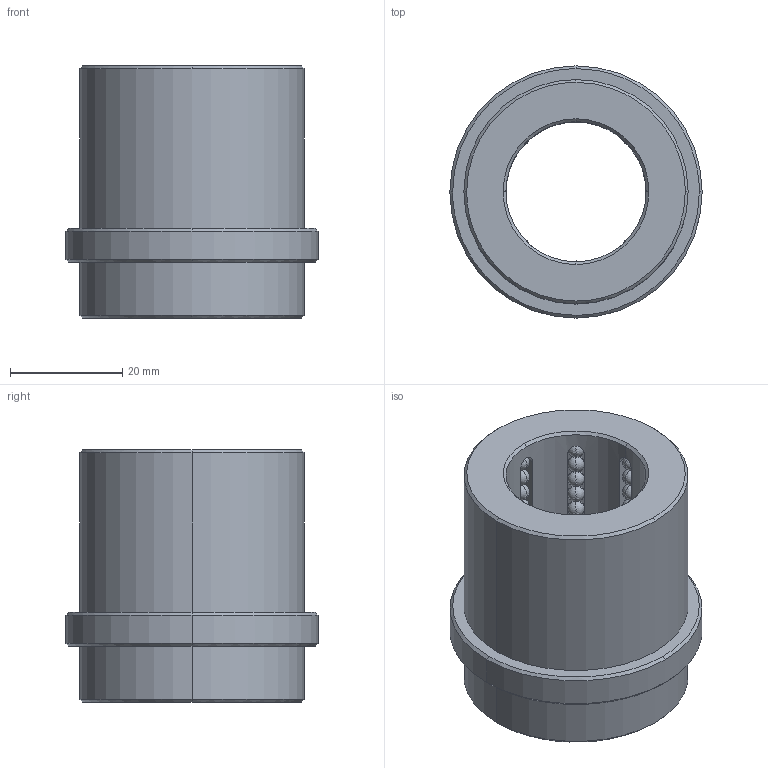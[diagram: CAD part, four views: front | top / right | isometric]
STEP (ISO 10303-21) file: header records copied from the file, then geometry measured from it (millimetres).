
FILE_DESCRIPTION(('CATIA V5 STEP Exchange'),'2;1');
FILE_NAME('C:\Users\Raffaele\Desktop\3D BOLEX\3D FILES CF BOLEX\2-BUSH REF 802\B8022535.stp','2019-06-19T13:56:15+00:00',('none'),('none'),'CATIA Version 5 Release 20 GA (IN-10)','CATIA V5 STEP AP203','none');
FILE_SCHEMA(('CONFIG_CONTROL_DESIGN'));
Length unit declared in the file: millimetre
Products named in the file (1): B8022535
Bounding box: 45 x 45 x 45 mm (x, y, z)
Volume: 35099.6 mm3; surface area: 15891.8 mm2
Topology: 97 solids, 97 shells, 460 faces, 1338 edges, 312 vertices
Faces by surface type: sphere 384, plane 28, cylinder 24, cone 24
Entity records: 8982 total; most frequent: CARTESIAN_POINT 1849, DIRECTION 1450, ORIENTED_EDGE 1140, AXIS2_PLACEMENT_3D 893, EDGE_CURVE 570, EDGE_LOOP 470, ADVANCED_FACE 460, FACE_OUTER_BOUND 460
